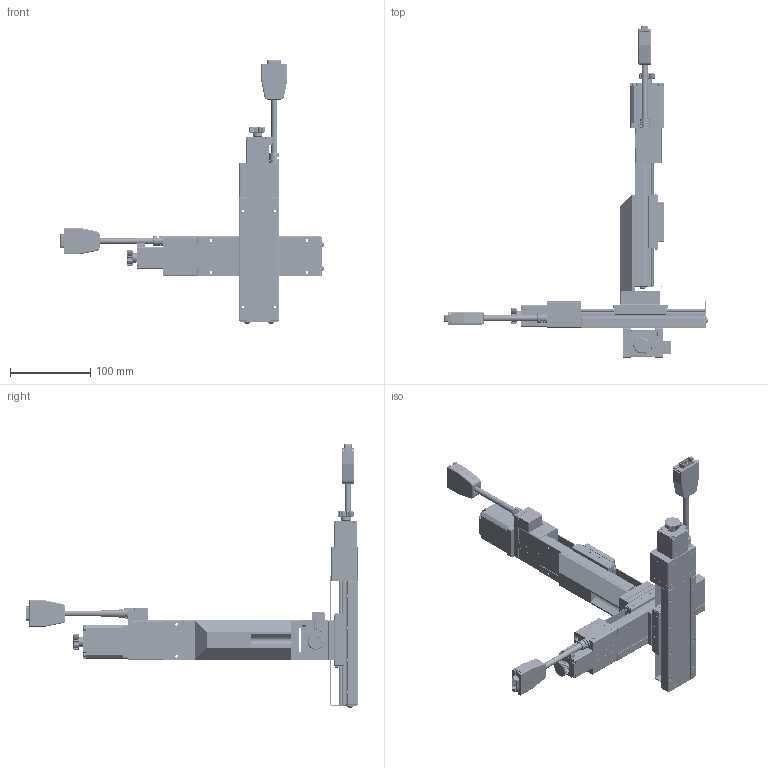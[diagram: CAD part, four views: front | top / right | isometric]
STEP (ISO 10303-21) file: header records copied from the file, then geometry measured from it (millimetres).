
FILE_DESCRIPTION (( 'STEP AP203' ), '1' );
FILE_NAME ('CXYZC5075.STEP', '2023-11-28T01:24:54', ( '' ), ( '' ), 'SwSTEP 2.0', 'SolidWorks 2019', '' );
FILE_SCHEMA (( 'CONFIG_CONTROL_DESIGN' ));
Length unit declared in the file: millimetre
Products named in the file (19): CXYZC5075; Group2^CXN5075-S2?N(2023新版)_defeature_GMT; Group1^CXN5075-S2?N(2023新版)_defeature_GMT; CXN5075-S2?N(2023新版)_defeature; Group1^CXYZC5075-S2?N(2023新版)_defeature_GMT; AMZB50-1; Group1^CZLC5075-S2?N(2023新版)_defeature_GMT; CMZB50-3; CXC5075-S2OPAN-303_50; CMZB50; CXC50-102-10; SC03B012_SCM435(化鎳後耐落); CZLC5075-S2?N(2023新版)_defeature; SC03B008_SUS304(鍍鋅黑); SC04B012_SCM435(化鎳); SD04B006_SD04B006-SCM435(化鎳); Group2^CXYZC5075-S2?N(2023新版)_defeature_GMT; SG02B004_SCM435(化鎳); Group2^CZLC5075-S2?N(2023新版)_defeature_GMT
Assembly tree (52 placements, depth 4):
  CXYZC5075
    Group1^CXYZC5075-S2?N(2023新版)_defeature_GMT
    Group2^CXYZC5075-S2?N(2023新版)_defeature_GMT
    SD04B006_SD04B006-SCM435(化鎳)  x4
    CXC5075-S2OPAN-303_50  x2
    CXC50-102-10  x4
    SC03B008_SUS304(鍍鋅黑)  x8
    SG02B004_SCM435(化鎳)  x4
    CXN5075-S2?N(2023新版)_defeature
      Group1^CXN5075-S2?N(2023新版)_defeature_GMT
      Group2^CXN5075-S2?N(2023新版)_defeature_GMT
    CZLC5075-S2?N(2023新版)_defeature
      Group1^CZLC5075-S2?N(2023新版)_defeature_GMT
      Group2^CZLC5075-S2?N(2023新版)_defeature_GMT
      CMZB50
        AMZB50-1
        CMZB50-3
        SC04B012_SCM435(化鎳)  x2
      SC03B012_SCM435(化鎳後耐落)  x6
      SD04B006_SD04B006-SCM435(化鎳)  x2
      CXC5075-S2OPAN-303_50
      SC03B008_SUS304(鍍鋅黑)  x4
      CXC50-102-10  x2
      SG02B004_SCM435(化鎳)  x2
Bounding box: 328.8 x 414.6 x 328.8 mm (x, y, z)
Volume: 228197.9 mm3; surface area: 394354.6 mm2
Topology: 49 solids, 147 shells, 22845 faces, 58717 edges, 36314 vertices
Faces by surface type: plane 10074, cylinder 5031, bspline 4435, cone 1397, torus 1360, sphere 548
Entity records: 731631 total; most frequent: CARTESIAN_POINT 241659, ORIENTED_EDGE 110074, DIRECTION 87084, EDGE_CURVE 55037, VERTEX_POINT 34523, AXIS2_PLACEMENT_3D 29772, VECTOR 27540, LINE 27540
